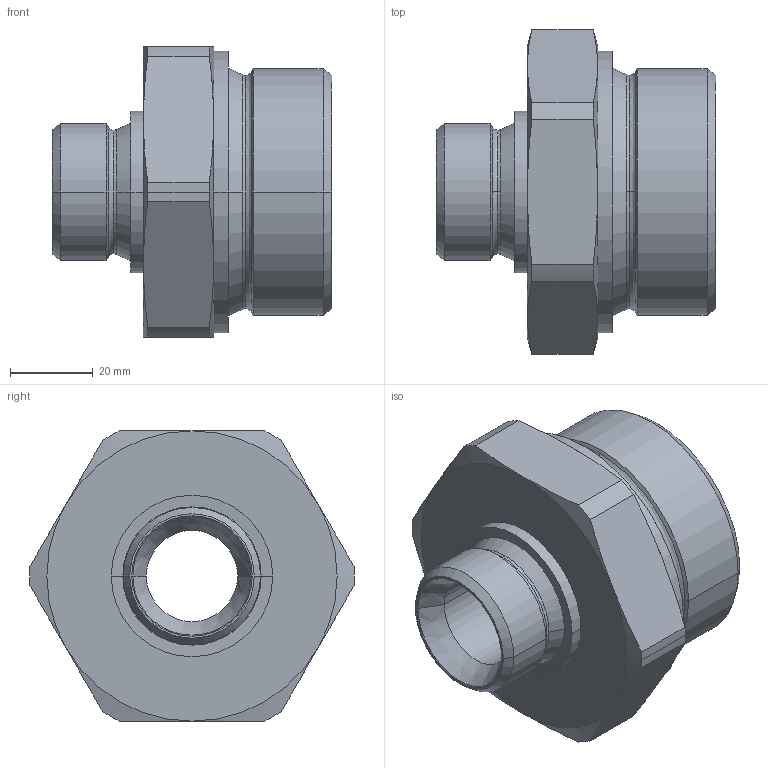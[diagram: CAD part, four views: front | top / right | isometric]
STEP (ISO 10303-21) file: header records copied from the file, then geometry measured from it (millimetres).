
FILE_DESCRIPTION((''),'2;1');
FILE_NAME('300525.stp','2006-09-11T08:14:04',(''),(''),'AutoCAD STEP 2000i','AutoCAD 2000i',', , ');
FILE_SCHEMA(('CONFIG_CONTROL_DESIGN'));
Length unit declared in the file: millimetre
Products named in the file (2): 300525.0; CHIAVE SMUSSATA#0
Assembly tree (1 placements, depth 2):
  300525.0
    CHIAVE SMUSSATA#0
Bounding box: 67.5 x 78.3 x 70 mm (x, y, z)
Volume: 91417.3 mm3; surface area: 25855.1 mm2
Topology: 1 solids, 1 shells, 76 faces, 178 edges, 106 vertices
Faces by surface type: cone 34, cylinder 20, plane 10, bspline 8, torus 4
Entity records: 2593 total; most frequent: CARTESIAN_POINT 762, DIRECTION 400, ORIENTED_EDGE 356, EDGE_CURVE 178, AXIS2_PLACEMENT_3D 176, VERTEX_POINT 106, CIRCLE 106, EDGE_LOOP 80
